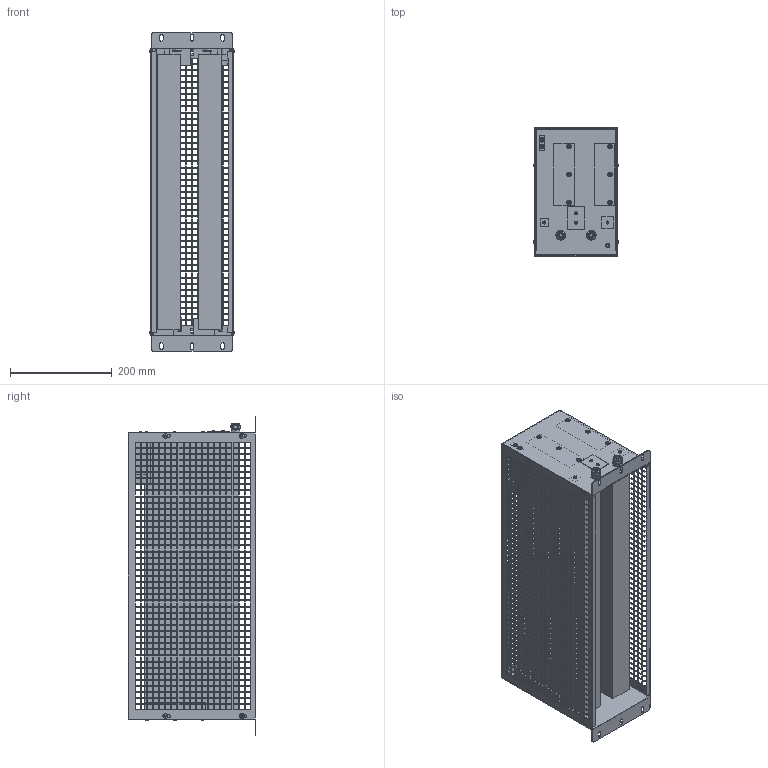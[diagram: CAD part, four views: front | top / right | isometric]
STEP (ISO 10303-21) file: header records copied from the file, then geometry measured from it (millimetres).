
FILE_DESCRIPTION(/* description */ (''),/* implementation_level */ '2;1');
FILE_NAME(/* name */ 'C:\_Vault\Dati\CATALOGO\RMX\RM 02X-Esterno.stp',/* time_stamp */ '2021-11-29T16:10:59+01:00',/* author */ ('claudio'),/* organization */ (''),/* preprocessor_version */ 'ST-DEVELOPER v18.1',/* originating_system */ 'Autodesk Inventor 2022',/* authorisation */ '');
FILE_SCHEMA (('AUTOMOTIVE_DESIGN { 1 0 10303 214 3 1 1 }'));
Products named in the file (2): RM 02X; RM 02X-Esterno
Assembly tree (1 placements, depth 2):
  RM 02X
    RM 02X-Esterno
Bounding box: 165.2 x 251 x 625 mm (x, y, z)
Volume: 9650267.7 mm3; surface area: 1133467.1 mm2
Topology: 1 solids, 21 shells, 9836 faces, 29264 edges, 19374 vertices
Faces by surface type: plane 9546, cylinder 178, cone 88, torus 24
Full cylindrical faces by diameter (mm): 3 x3, 3.2 x1, 4 x2, 4.8 x22, 4.917 x1, 5 x14, 6.3 x2, 8.8 x1, 9.6 x2, 9.8 x2, 11 x2, 11.6 x2, 13.86 x2, 15.2 x6, 15.5 x4, 17 x4
Entity records: 341727 total; most frequent: CARTESIAN_POINT 58717, ORIENTED_EDGE 58528, DIRECTION 49468, EDGE_CURVE 29264, LINE 28498, VECTOR 28498, VERTEX_POINT 19374, EDGE_LOOP 14268
